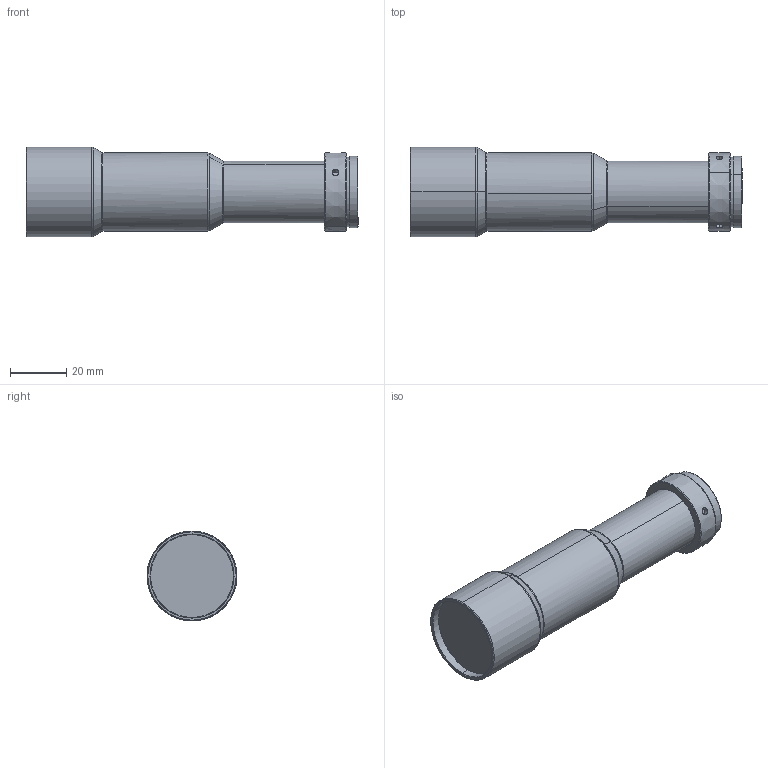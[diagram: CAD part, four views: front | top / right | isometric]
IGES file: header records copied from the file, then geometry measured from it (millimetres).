
Start section: SolidWorks IGES file using analytic representation for surfaces
Global section: file name: E:\liang\嫖悝噩芛\WWH\WWH12-108ATV3\楷諦誧3D\WWH12-108ATV3.IGS; native system: SolidWorks 2017; preprocessor: SolidWorks 2017; author: wenru; date: 230616.173734; units: millimetre
Bounding box: 118.15 x 32 x 32 mm (x, y, z)
Surface area: 12150.1 mm2 (no closed solid volume)
Topology: 0 solids, 0 shells, 56 faces, 952 edges, 952 vertices
Faces by surface type: revolution 41, bspline 15
